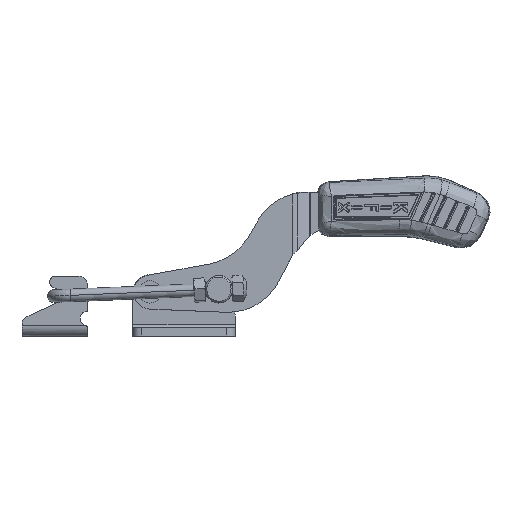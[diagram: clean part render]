
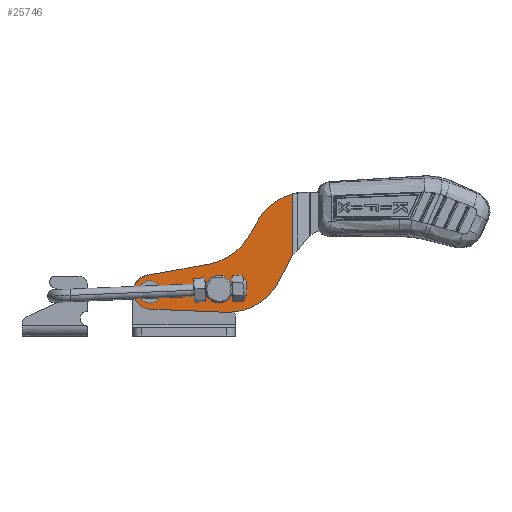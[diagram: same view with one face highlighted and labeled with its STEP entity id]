
A CAD part, top view. The second image highlights one B-rep face of the part: STEP entity #25746.
In plain terms, the highlighted planar face has unit normal (0, 0, 1) as drawn and (0, 0, -1) by its records, which use the part's own axes.
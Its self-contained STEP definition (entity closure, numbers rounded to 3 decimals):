
#415 = CARTESIAN_POINT ( 'NONE',  ( 64.294, -16.734, -2.65 ) ) ;
#477 = VERTEX_POINT ( 'NONE', #29919 ) ;
#826 = EDGE_LOOP ( 'NONE', ( #11204, #10172 ) ) ;
#1021 = LINE ( 'NONE', #17316, #21787 ) ;
#1216 = DIRECTION ( 'NONE',  ( 0., 0., 1. ) ) ;
#2168 = CARTESIAN_POINT ( 'NONE',  ( 113.826, -29.114, -2.65 ) ) ;
#2902 = ORIENTED_EDGE ( 'NONE', *, *, #31268, .F. ) ;
#3371 = DIRECTION ( 'NONE',  ( 0., 0., 1. ) ) ;
#3540 = VERTEX_POINT ( 'NONE', #32055 ) ;
#3910 = VERTEX_POINT ( 'NONE', #26998 ) ;
#3964 = CARTESIAN_POINT ( 'NONE',  ( 79.565, -9.796, -2.65 ) ) ;
#3975 = AXIS2_PLACEMENT_3D ( 'NONE', #12688, #31632, #15410 ) ;
#4136 = CARTESIAN_POINT ( 'NONE',  ( 76.022, -3.812, -2.65 ) ) ;
#4191 = AXIS2_PLACEMENT_3D ( 'NONE', #19571, #3371, #22279 ) ;
#4366 = EDGE_LOOP ( 'NONE', ( #5267, #31986 ) ) ;
#4403 = VERTEX_POINT ( 'NONE', #27203 ) ;
#4507 = DIRECTION ( 'NONE',  ( 0., 0., 1. ) ) ;
#4630 = CARTESIAN_POINT ( 'NONE',  ( 64.294, -16.734, -2.65 ) ) ;
#4893 = AXIS2_PLACEMENT_3D ( 'NONE', #20699, #4507, #23418 ) ;
#4911 = AXIS2_PLACEMENT_3D ( 'NONE', #30826, #14600, #33579 ) ;
#5267 = ORIENTED_EDGE ( 'NONE', *, *, #20536, .T. ) ;
#5273 = LINE ( 'NONE', #8783, #25993 ) ;
#5374 = DIRECTION ( 'NONE',  ( 1., 0., 0. ) ) ;
#5857 = CARTESIAN_POINT ( 'NONE',  ( 87.436, -36.22, -2.65 ) ) ;
#5858 = PLANE ( 'NONE',  #14729 ) ;
#5971 = EDGE_CURVE ( 'NONE', #8856, #3910, #30367, .T. ) ;
#6929 = FACE_BOUND ( 'NONE', #826, .T. ) ;
#7881 = CARTESIAN_POINT ( 'NONE',  ( 119.826, -29.114, -2.65 ) ) ;
#8248 = DIRECTION ( 'NONE',  ( 0., 0., 1. ) ) ;
#8318 = VERTEX_POINT ( 'NONE', #32479 ) ;
#8564 = DIRECTION ( 'NONE',  ( 1., 0., 0. ) ) ;
#8688 = CARTESIAN_POINT ( 'NONE',  ( 96.775, 0.392, -2.65 ) ) ;
#8783 = CARTESIAN_POINT ( 'NONE',  ( 63.965, -29.114, -2.65 ) ) ;
#8856 = VERTEX_POINT ( 'NONE', #20228 ) ;
#8877 = CARTESIAN_POINT ( 'NONE',  ( 46.571, -26., -2.65 ) ) ;
#8900 = CIRCLE ( 'NONE', #4911, 6. ) ;
#10172 = ORIENTED_EDGE ( 'NONE', *, *, #28111, .T. ) ;
#10321 = DIRECTION ( 'NONE',  ( 0., 0., 1. ) ) ;
#11204 = ORIENTED_EDGE ( 'NONE', *, *, #21553, .T. ) ;
#11406 = DIRECTION ( 'NONE',  ( 1., 0., 0. ) ) ;
#11506 = DIRECTION ( 'NONE',  ( 0., 1., 0. ) ) ;
#11601 = DIRECTION ( 'NONE',  ( 1., 0., 0. ) ) ;
#11823 = VERTEX_POINT ( 'NONE', #3964 ) ;
#12586 = CIRCLE ( 'NONE', #3975, 3.2 ) ;
#12688 = CARTESIAN_POINT ( 'NONE',  ( 114.073, -29.054, -2.65 ) ) ;
#13360 = AXIS2_PLACEMENT_3D ( 'NONE', #2168, #21084, #5374 ) ;
#13509 = ORIENTED_EDGE ( 'NONE', *, *, #21759, .F. ) ;
#13918 = CARTESIAN_POINT ( 'NONE',  ( 113.826, -29.114, -2.65 ) ) ;
#13975 = ORIENTED_EDGE ( 'NONE', *, *, #29339, .F. ) ;
#14073 = VERTEX_POINT ( 'NONE', #415 ) ;
#14192 = EDGE_CURVE ( 'NONE', #8318, #22178, #1021, .T. ) ;
#14600 = DIRECTION ( 'NONE',  ( 0., 0., 1. ) ) ;
#14729 = AXIS2_PLACEMENT_3D ( 'NONE', #13918, #24778, #8564 ) ;
#15301 = LINE ( 'NONE', #4630, #29714 ) ;
#15410 = DIRECTION ( 'NONE',  ( 1., 0., 0. ) ) ;
#15708 = VECTOR ( 'NONE', #28485, 1000. ) ;
#15790 = VERTEX_POINT ( 'NONE', #20470 ) ;
#15791 = EDGE_LOOP ( 'NONE', ( #13975, #21939, #13509, #34457, #27286, #28058, #27446, #27380, #2902, #22378, #32243 ) ) ;
#16388 = AXIS2_PLACEMENT_3D ( 'NONE', #8688, #27646, #11406 ) ;
#16746 = AXIS2_PLACEMENT_3D ( 'NONE', #26563, #10321, #29300 ) ;
#17297 = CIRCLE ( 'NONE', #13360, 6. ) ;
#17316 = CARTESIAN_POINT ( 'NONE',  ( 93.216, -19.289, -2.65 ) ) ;
#17378 = VERTEX_POINT ( 'NONE', #27096 ) ;
#17425 = CARTESIAN_POINT ( 'NONE',  ( 89.847, -28.139, -2.65 ) ) ;
#17747 = LINE ( 'NONE', #5857, #24928 ) ;
#17999 = EDGE_CURVE ( 'NONE', #22178, #11823, #26674, .T. ) ;
#19571 = CARTESIAN_POINT ( 'NONE',  ( 86.603, -16.237, -2.65 ) ) ;
#19586 = VERTEX_POINT ( 'NONE', #31101 ) ;
#19590 = CARTESIAN_POINT ( 'NONE',  ( 93.216, -19.289, -2.65 ) ) ;
#20144 = DIRECTION ( 'NONE',  ( 1., 0., 0. ) ) ;
#20228 = CARTESIAN_POINT ( 'NONE',  ( 68.879, -25.503, -2.65 ) ) ;
#20470 = CARTESIAN_POINT ( 'NONE',  ( 63.965, -16.13, -2.65 ) ) ;
#20471 = VERTEX_POINT ( 'NONE', #28089 ) ;
#20494 = FACE_BOUND ( 'NONE', #4366, .T. ) ;
#20536 = EDGE_CURVE ( 'NONE', #33763, #20471, #12586, .T. ) ;
#20699 = CARTESIAN_POINT ( 'NONE',  ( 89.847, -28.139, -2.65 ) ) ;
#21017 = CIRCLE ( 'NONE', #33930, 20. ) ;
#21084 = DIRECTION ( 'NONE',  ( 0., 0., 1. ) ) ;
#21553 = EDGE_CURVE ( 'NONE', #17378, #3540, #31615, .T. ) ;
#21759 = EDGE_CURVE ( 'NONE', #19586, #477, #21017, .T. ) ;
#21787 = VECTOR ( 'NONE', #33537, 1000. ) ;
#21939 = ORIENTED_EDGE ( 'NONE', *, *, #25780, .T. ) ;
#22178 = VERTEX_POINT ( 'NONE', #19590 ) ;
#22279 = DIRECTION ( 'NONE',  ( 1., 0., 0. ) ) ;
#22378 = ORIENTED_EDGE ( 'NONE', *, *, #5971, .F. ) ;
#23418 = DIRECTION ( 'NONE',  ( 1., 0., 0. ) ) ;
#23685 = CIRCLE ( 'NONE', #16746, 3.2 ) ;
#23713 = CIRCLE ( 'NONE', #33958, 20. ) ;
#24470 = CARTESIAN_POINT ( 'NONE',  ( 58.812, -14., -2.65 ) ) ;
#24777 = DIRECTION ( 'NONE',  ( 0.999, 0.042, 0. ) ) ;
#24778 = DIRECTION ( 'NONE',  ( 0., 0., 1. ) ) ;
#24928 = VECTOR ( 'NONE', #24777, 1000. ) ;
#25045 = CIRCLE ( 'NONE', #33042, 4.85 ) ;
#25150 = VERTEX_POINT ( 'NONE', #7881 ) ;
#25746 = ADVANCED_FACE ( 'NONE', ( #6929, #20494, #34946 ), #5858, .F. ) ;
#25780 = EDGE_CURVE ( 'NONE', #15790, #477, #5273, .T. ) ;
#25993 = VECTOR ( 'NONE', #11506, 1000. ) ;
#26563 = CARTESIAN_POINT ( 'NONE',  ( 114.073, -29.054, -2.65 ) ) ;
#26674 = CIRCLE ( 'NONE', #16388, 20. ) ;
#26998 = CARTESIAN_POINT ( 'NONE',  ( 87.436, -36.22, -2.65 ) ) ;
#27096 = CARTESIAN_POINT ( 'NONE',  ( 94.697, -28.139, -2.65 ) ) ;
#27191 = DIRECTION ( 'NONE',  ( 1., 0., 0. ) ) ;
#27203 = CARTESIAN_POINT ( 'NONE',  ( 114.076, -35.109, -2.65 ) ) ;
#27286 = ORIENTED_EDGE ( 'NONE', *, *, #17999, .F. ) ;
#27380 = ORIENTED_EDGE ( 'NONE', *, *, #31662, .F. ) ;
#27446 = ORIENTED_EDGE ( 'NONE', *, *, #29039, .F. ) ;
#27646 = DIRECTION ( 'NONE',  ( 0., 0., -1. ) ) ;
#27845 = DIRECTION ( 'NONE',  ( 0., 0., -1. ) ) ;
#28058 = ORIENTED_EDGE ( 'NONE', *, *, #14192, .F. ) ;
#28089 = CARTESIAN_POINT ( 'NONE',  ( 110.873, -29.054, -2.65 ) ) ;
#28111 = EDGE_CURVE ( 'NONE', #3540, #17378, #25045, .T. ) ;
#28263 = EDGE_CURVE ( 'NONE', #14073, #8856, #15301, .T. ) ;
#28485 = DIRECTION ( 'NONE',  ( -0.509, 0.861, 0. ) ) ;
#28685 = EDGE_CURVE ( 'NONE', #11823, #19586, #30136, .T. ) ;
#29039 = EDGE_CURVE ( 'NONE', #25150, #8318, #8900, .T. ) ;
#29300 = DIRECTION ( 'NONE',  ( 1., 0., 0. ) ) ;
#29339 = EDGE_CURVE ( 'NONE', #15790, #14073, #23713, .T. ) ;
#29714 = VECTOR ( 'NONE', #31474, 1000. ) ;
#29919 = CARTESIAN_POINT ( 'NONE',  ( 63.965, 5.325, -2.65 ) ) ;
#30136 = LINE ( 'NONE', #4136, #15708 ) ;
#30161 = EDGE_CURVE ( 'NONE', #20471, #33763, #23685, .T. ) ;
#30367 = CIRCLE ( 'NONE', #4191, 20. ) ;
#30826 = CARTESIAN_POINT ( 'NONE',  ( 113.826, -29.114, -2.65 ) ) ;
#31101 = CARTESIAN_POINT ( 'NONE',  ( 76.022, -3.812, -2.65 ) ) ;
#31268 = EDGE_CURVE ( 'NONE', #3910, #4403, #17747, .T. ) ;
#31474 = DIRECTION ( 'NONE',  ( 0.463, -0.886, 0. ) ) ;
#31615 = CIRCLE ( 'NONE', #4893, 4.85 ) ;
#31632 = DIRECTION ( 'NONE',  ( 0., 0., 1. ) ) ;
#31662 = EDGE_CURVE ( 'NONE', #4403, #25150, #17297, .T. ) ;
#31986 = ORIENTED_EDGE ( 'NONE', *, *, #30161, .T. ) ;
#32055 = CARTESIAN_POINT ( 'NONE',  ( 84.997, -28.139, -2.65 ) ) ;
#32243 = ORIENTED_EDGE ( 'NONE', *, *, #28263, .F. ) ;
#32479 = CARTESIAN_POINT ( 'NONE',  ( 114.894, -23.21, -2.65 ) ) ;
#33042 = AXIS2_PLACEMENT_3D ( 'NONE', #17425, #1216, #20144 ) ;
#33049 = CARTESIAN_POINT ( 'NONE',  ( 117.273, -29.054, -2.65 ) ) ;
#33537 = DIRECTION ( 'NONE',  ( -0.984, 0.178, 0. ) ) ;
#33579 = DIRECTION ( 'NONE',  ( 1., 0., 0. ) ) ;
#33763 = VERTEX_POINT ( 'NONE', #33049 ) ;
#33930 = AXIS2_PLACEMENT_3D ( 'NONE', #24470, #8248, #27191 ) ;
#33958 = AXIS2_PLACEMENT_3D ( 'NONE', #8877, #27845, #11601 ) ;
#34457 = ORIENTED_EDGE ( 'NONE', *, *, #28685, .F. ) ;
#34946 = FACE_OUTER_BOUND ( 'NONE', #15791, .T. ) ;
